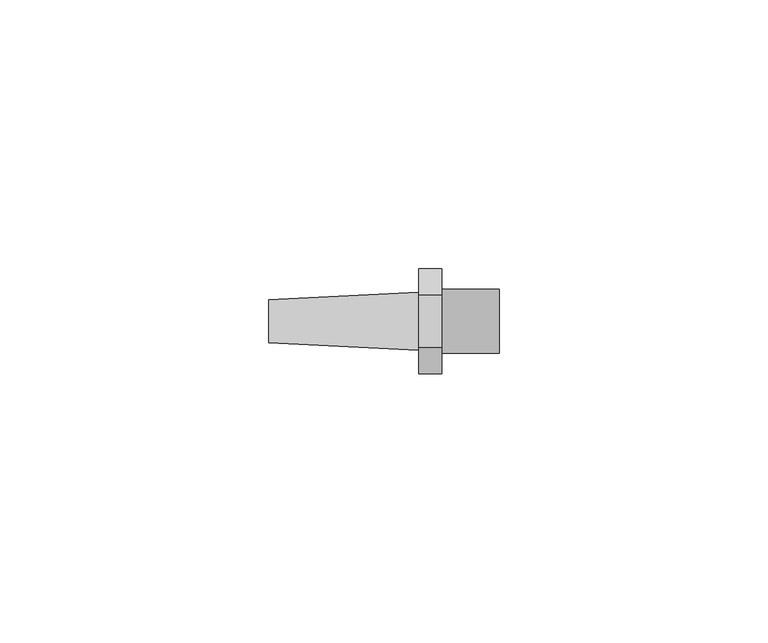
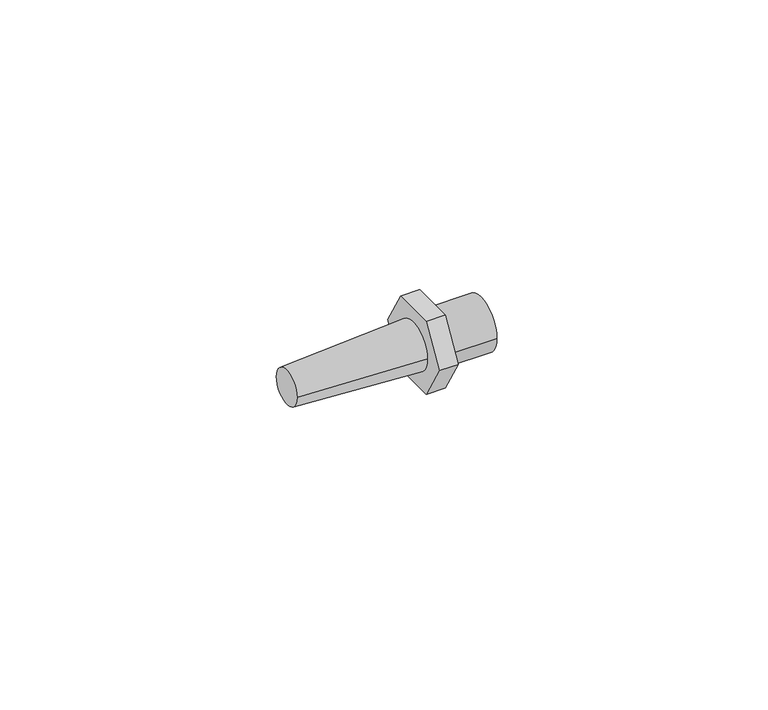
"""IFC4 building model written with IfcOpenShell, lengths in millimetres: pipe fitting geometry, 01011427 : Espiga conexion cónica/roscada H/."""

from ifc_helpers import new_model, si_unit, frame, origin, place, context, project, spatial, polyline, circle_curve, source, transform, mapped, element, save
from ifc_brep_helpers import plane_surface, cylinder_surface, revolved_surface, advanced_brep


def pipe_fitting_45a36362(model_context):
    return source(origin(), model_context, "Body", "AdvancedBrep", [
        advanced_brep(
        [(-21.5, 4.0, 0.0), (-21.5, -4.0, 0.0), (6.5, 5.4, 0.0), (6.5, -5.4, 0.0)],
        [
            (0, 1, circle_curve(frame((-21.5, 0.0, 0.0), z_axis=(-1.0, 0.0, 0.0), x_axis=(0.0, 1.0, 0.0)), 4.0)),
            (1, 0, circle_curve(frame((-21.5, 0.0, 0.0), z_axis=(-1.0, 0.0, 0.0), x_axis=(0.0, -1.0, 0.0)), 4.0)),
            (2, 3, circle_curve(frame((6.5, 0.0, 0.0), z_axis=(1.0, 0.0, 0.0), x_axis=(0.0, -1.0, 0.0)), 5.4)),
            (3, 2, circle_curve(frame((6.5, 0.0, 0.0), z_axis=(1.0, 0.0, 0.0), x_axis=(0.0, 1.0, 0.0)), 5.4)),
            (3, 1),
            (0, 2),
        ],
        [
            plane_surface(frame((-21.5, 0.0, 0.0), z_axis=(-1.0, 0.0, 0.0), x_axis=(0.0, 0.0, -1.0))),
            plane_surface(frame((6.5, 0.0, 0.0), z_axis=(1.0, 0.0, 0.0), x_axis=(0.0, 0.0, -1.0))),
            revolved_surface(polyline([(-21.5, 4.0, 0.0), (6.5, 5.4, 0.0)]), (-101.5, 0.0, 0.0), (1.0, 0.0, 0.0)),
            revolved_surface(polyline([(-21.5, -4.0, 0.0), (6.5, -5.4, 0.0)]), (-101.5, 0.0, 0.0), (1.0, 0.0, 0.0)),
        ],
        [
            (0, [[1, 2]]),
            (1, [[3, 4]]),
            (2, [[-4, 5, -1, 6]]),
            (3, [[-3, -6, -2, -5]]),
        ],
    ),
        advanced_brep(
        [(10.75, -4.9074773, 8.5), (10.75, -9.8149546, 0.0), (10.75, -4.9074773, -8.5), (10.75, 4.9074773, -8.5), (10.75, 9.8149546, 0.0), (10.75, 4.9074773, 8.5), (10.75, -6.0, 0.0), (10.75, 6.0, 0.0), (6.5, -4.9074773, 8.5), (6.5, 4.9074773, 8.5), (6.5, 9.8149546, 0.0), (6.5, 4.9074773, -8.5), (6.5, -4.9074773, -8.5), (6.5, -9.8149546, 0.0), (21.5, -6.0, 0.0), (21.5, 6.0, 0.0)],
        [
            (0, 1),
            (1, 2),
            (2, 3),
            (3, 4),
            (4, 5),
            (5, 0),
            (6, 7, circle_curve(frame((10.75, 0.0, 0.0), z_axis=(-1.0, 0.0, 0.0), x_axis=(0.0, 1.0, 0.0)), 6.0)),
            (7, 6, circle_curve(frame((10.75, 0.0, 0.0), z_axis=(-1.0, 0.0, 0.0), x_axis=(0.0, 1.0, 0.0)), 6.0)),
            (8, 9),
            (9, 10),
            (10, 11),
            (11, 12),
            (12, 13),
            (13, 8),
            (0, 8),
            (13, 1),
            (12, 2),
            (11, 3),
            (10, 4),
            (9, 5),
            (14, 15, circle_curve(frame((21.5, 0.0, 0.0), z_axis=(1.0, 0.0, 0.0), x_axis=(0.0, 1.0, 0.0)), 6.0)),
            (15, 14, circle_curve(frame((21.5, 0.0, 0.0), z_axis=(1.0, 0.0, 0.0), x_axis=(0.0, 1.0, 0.0)), 6.0)),
            (15, 7),
            (6, 14),
        ],
        [
            plane_surface(frame((10.75, -4.9074773, 8.5), z_axis=(1.0, 0.0, 0.0), x_axis=(0.0, -0.5000000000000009, -0.8660254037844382))),
            plane_surface(frame((6.5, -4.9074773, 8.5), z_axis=(-1.0, 0.0, 0.0), x_axis=(0.0, 0.5000000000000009, 0.8660254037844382))),
            plane_surface(frame((10.75, -4.9074773, 8.5), z_axis=(0.0, -0.8660254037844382, 0.5000000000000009), x_axis=(-1.0, 0.0, 0.0))),
            plane_surface(frame((10.75, -9.8149546, 0.0), z_axis=(0.0, -0.866025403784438, -0.500000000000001), x_axis=(-1.0, 0.0, 0.0))),
            plane_surface(frame((10.75, -4.9074773, -8.5), z_axis=(0.0, 0.0, -1.0), x_axis=(-1.0, 0.0, 0.0))),
            plane_surface(frame((10.75, 4.9074773, -8.5), z_axis=(0.0, 0.8660254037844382, -0.5000000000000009), x_axis=(-1.0, 0.0, 0.0))),
            plane_surface(frame((10.75, 9.8149546, 0.0), z_axis=(0.0, 0.8660254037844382, 0.500000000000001), x_axis=(-1.0, 0.0, 0.0))),
            plane_surface(frame((10.75, 4.9074773, 8.5), z_axis=(0.0, 0.0, 1.0), x_axis=(-1.0, 0.0, 0.0))),
            plane_surface(frame((21.5, 0.0, 0.0), z_axis=(1.0, 0.0, 0.0), x_axis=(0.0, 0.0, 1.0))),
            cylinder_surface(frame((10.75, 0.0, 0.0), z_axis=(-1.0, 0.0, 0.0), x_axis=(0.0, 1.0, 0.0)), 6.0),
        ],
        [
            (0, [[1, 2, 3, 4, 5, 6], [7, 8]]),
            (1, [[9, 10, 11, 12, 13, 14]]),
            (2, [[-1, 15, -14, 16]]),
            (3, [[-2, -16, -13, 17]]),
            (4, [[-3, -17, -12, 18]]),
            (5, [[-4, -18, -11, 19]]),
            (6, [[-5, -19, -10, 20]]),
            (7, [[-6, -20, -9, -15]]),
            (8, [[21, 22]]),
            (9, [[-22, 23, -7, 24]]),
            (9, [[-21, -24, -8, -23]]),
        ],
    ),
    ])


if __name__ == "__main__":
    model = new_model("IFC4")
    model_context = context("Model", 3, world=origin())
    ifc_project = project(units=[si_unit("LENGTHUNIT", "METRE", prefix="MILLI")], contexts=[model_context])
    site = spatial("IfcSite", under=ifc_project)
    building = spatial("IfcBuilding", under=site)
    placement = place(None, origin())
    pipe_fitting_shape = pipe_fitting_45a36362(model_context)
    element("IfcPipeFitting", 1, ObjectType="01011427 : Espiga conexion cónica/roscada H/", at=placement, inside=building, context=model_context, shape_type="MappedRepresentation", body=[
        mapped(pipe_fitting_shape, transform((0.0, 0.0, 0.0), x_axis=(1.0, 0.0, 0.0), y_axis=(0.0, 1.0, 0.0), z_axis=(0.0, 0.0, 1.0))),
    ])
    save(model, "model.ifc")
